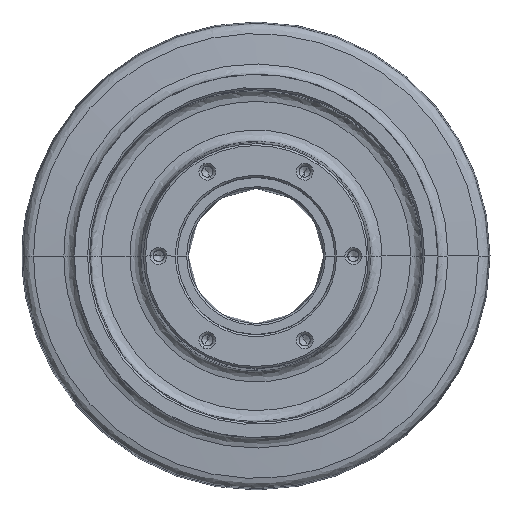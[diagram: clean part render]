
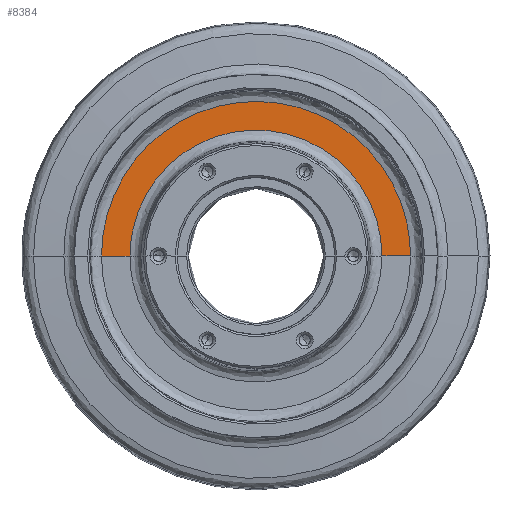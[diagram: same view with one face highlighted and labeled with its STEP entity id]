
A CAD part, left-side view. The second image highlights one B-rep face of the part: STEP entity #8384.
In plain terms, the highlighted planar face has unit normal (-1, 0, 0).
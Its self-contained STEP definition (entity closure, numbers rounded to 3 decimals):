
#737 = CARTESIAN_POINT ( 'NONE',  ( -5., -41.273, 0. ) ) ;
#757 = AXIS2_PLACEMENT_3D ( 'NONE', #2476, #2477, #2478 ) ;
#2205 = CARTESIAN_POINT ( 'NONE',  ( -5., 41.273, 0. ) ) ;
#2208 = CARTESIAN_POINT ( 'NONE',  ( -5., 41.273, 7.245 ) ) ;
#2210 = CARTESIAN_POINT ( 'NONE',  ( -5., 39.366, 14.362 ) ) ;
#2211 = CARTESIAN_POINT ( 'NONE',  ( -5., 35.743, 20.636 ) ) ;
#2212 = CARTESIAN_POINT ( 'NONE',  ( -5., 32.121, 26.911 ) ) ;
#2213 = CARTESIAN_POINT ( 'NONE',  ( -5., 26.911, 32.121 ) ) ;
#2214 = CARTESIAN_POINT ( 'NONE',  ( -5., 20.636, 35.743 ) ) ;
#2215 = CARTESIAN_POINT ( 'NONE',  ( -5., 14.362, 39.366 ) ) ;
#2216 = CARTESIAN_POINT ( 'NONE',  ( -5., 7.245, 41.273 ) ) ;
#2217 = CARTESIAN_POINT ( 'NONE',  ( -5., 0., 41.273 ) ) ;
#2218 = CARTESIAN_POINT ( 'NONE',  ( -5., -7.245, 41.273 ) ) ;
#2219 = CARTESIAN_POINT ( 'NONE',  ( -5., -14.362, 39.366 ) ) ;
#2220 = CARTESIAN_POINT ( 'NONE',  ( -5., -20.636, 35.743 ) ) ;
#2221 = CARTESIAN_POINT ( 'NONE',  ( -5., -26.911, 32.121 ) ) ;
#2222 = CARTESIAN_POINT ( 'NONE',  ( -5., -32.121, 26.911 ) ) ;
#2223 = CARTESIAN_POINT ( 'NONE',  ( -5., -35.743, 20.636 ) ) ;
#2224 = CARTESIAN_POINT ( 'NONE',  ( -5., -39.366, 14.362 ) ) ;
#2225 = CARTESIAN_POINT ( 'NONE',  ( -5., -41.273, 7.245 ) ) ;
#2226 = CARTESIAN_POINT ( 'NONE',  ( -5., -41.273, 0. ) ) ;
#2474 = PLANE ( 'NONE',  #757 ) ;
#2476 = CARTESIAN_POINT ( 'NONE',  ( -5., 41.273, 0. ) ) ;
#2477 = DIRECTION ( 'NONE',  ( 1., 0., 0. ) ) ;
#2478 = DIRECTION ( 'NONE',  ( 0., -1., 0. ) ) ;
#2517 = VERTEX_POINT ( 'NONE', #7197 ) ;
#2547 = VERTEX_POINT ( 'NONE', #7243 ) ;
#2703 = VERTEX_POINT ( 'NONE', #7291 ) ;
#2776 = VERTEX_POINT ( 'NONE', #737 ) ;
#3375 = FACE_OUTER_BOUND ( 'NONE', #8775, .T. ) ;
#6984 = CARTESIAN_POINT ( 'NONE',  ( -5., 37.452, 0. ) ) ;
#6986 = DIRECTION ( 'NONE',  ( 0., 1., 0. ) ) ;
#7197 = CARTESIAN_POINT ( 'NONE',  ( -5., -33.63, 0. ) ) ;
#7243 = CARTESIAN_POINT ( 'NONE',  ( -5., 41.273, 0. ) ) ;
#7291 = CARTESIAN_POINT ( 'NONE',  ( -5., 33.63, 0. ) ) ;
#7509 = EDGE_CURVE ( 'NONE', #2703, #2547, #8656, .T. ) ;
#8384 = ADVANCED_FACE ( 'NONE', ( #3375 ), #2474, .F. ) ;
#8653 = VECTOR ( 'NONE', #6986, 1000. ) ;
#8656 = LINE ( 'NONE', #6984, #8653 ) ;
#8775 = EDGE_LOOP ( 'NONE', ( #8841, #8840, #8839, #8838 ) ) ;
#8838 = ORIENTED_EDGE ( 'NONE', *, *, #9187, .F. ) ;
#8839 = ORIENTED_EDGE ( 'NONE', *, *, #9193, .F. ) ;
#8840 = ORIENTED_EDGE ( 'NONE', *, *, #7509, .F. ) ;
#8841 = ORIENTED_EDGE ( 'NONE', *, *, #9085, .F. ) ;
#9085 = EDGE_CURVE ( 'NONE', #2547, #2776, #12533, .T. ) ;
#9187 = EDGE_CURVE ( 'NONE', #2776, #2517, #10775, .T. ) ;
#9193 = EDGE_CURVE ( 'NONE', #2517, #2703, #13517, .T. ) ;
#10142 = CARTESIAN_POINT ( 'NONE',  ( -5., -37.452, 0. ) ) ;
#10143 = DIRECTION ( 'NONE',  ( 0., 1., 0. ) ) ;
#10167 = CARTESIAN_POINT ( 'NONE',  ( -5., -33.63, 0. ) ) ;
#10189 = CARTESIAN_POINT ( 'NONE',  ( -5., -33.63, 5.903 ) ) ;
#10190 = CARTESIAN_POINT ( 'NONE',  ( -5., -32.076, 11.703 ) ) ;
#10191 = CARTESIAN_POINT ( 'NONE',  ( -5., -29.125, 16.815 ) ) ;
#10192 = CARTESIAN_POINT ( 'NONE',  ( -5., -26.173, 21.928 ) ) ;
#10193 = CARTESIAN_POINT ( 'NONE',  ( -5., -21.928, 26.173 ) ) ;
#10194 = CARTESIAN_POINT ( 'NONE',  ( -5., -16.815, 29.125 ) ) ;
#10195 = CARTESIAN_POINT ( 'NONE',  ( -5., -11.703, 32.076 ) ) ;
#10196 = CARTESIAN_POINT ( 'NONE',  ( -5., -5.903, 33.63 ) ) ;
#10197 = CARTESIAN_POINT ( 'NONE',  ( -5., 0., 33.63 ) ) ;
#10198 = CARTESIAN_POINT ( 'NONE',  ( -5., 5.903, 33.63 ) ) ;
#10199 = CARTESIAN_POINT ( 'NONE',  ( -5., 11.703, 32.076 ) ) ;
#10200 = CARTESIAN_POINT ( 'NONE',  ( -5., 16.815, 29.125 ) ) ;
#10201 = CARTESIAN_POINT ( 'NONE',  ( -5., 21.928, 26.173 ) ) ;
#10202 = CARTESIAN_POINT ( 'NONE',  ( -5., 26.173, 21.928 ) ) ;
#10203 = CARTESIAN_POINT ( 'NONE',  ( -5., 29.125, 16.815 ) ) ;
#10204 = CARTESIAN_POINT ( 'NONE',  ( -5., 32.076, 11.703 ) ) ;
#10205 = CARTESIAN_POINT ( 'NONE',  ( -5., 33.63, 5.903 ) ) ;
#10206 = CARTESIAN_POINT ( 'NONE',  ( -5., 33.63, 0. ) ) ;
#10775 = LINE ( 'NONE', #10142, #10776 ) ;
#10776 = VECTOR ( 'NONE', #10143, 1000. ) ;
#12533 = B_SPLINE_CURVE_WITH_KNOTS ( 'NONE', 3,
 ( #2205, #2208, #2210, #2211, #2212, #2213, #2214, #2215, #2216, #2217, #2218, #2219, #2220, #2221, #2222, #2223, #2224, #2225, #2226 ),
 .UNSPECIFIED., .F., .F.,
 ( 4, 3, 3, 3, 3, 3, 4 ),
 ( 0., 0.167, 0.333, 0.5, 0.667, 0.833, 1. ),
 .UNSPECIFIED. ) ;
#13517 = B_SPLINE_CURVE_WITH_KNOTS ( 'NONE', 3,
 ( #10167, #10189, #10190, #10191, #10192, #10193, #10194, #10195, #10196, #10197, #10198, #10199, #10200, #10201, #10202, #10203, #10204, #10205, #10206 ),
 .UNSPECIFIED., .F., .F.,
 ( 4, 3, 3, 3, 3, 3, 4 ),
 ( 0., 0.167, 0.333, 0.5, 0.667, 0.833, 1. ),
 .UNSPECIFIED. ) ;
